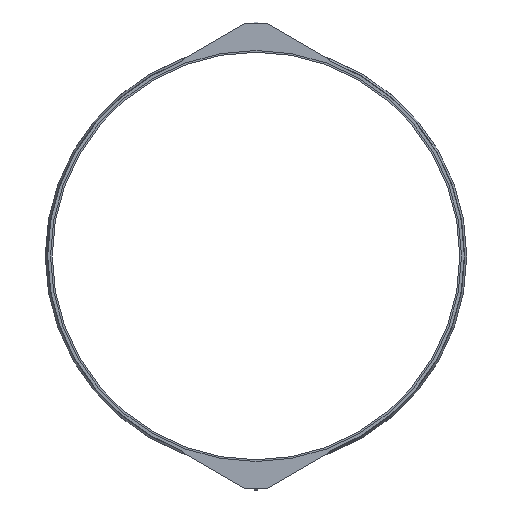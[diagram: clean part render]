
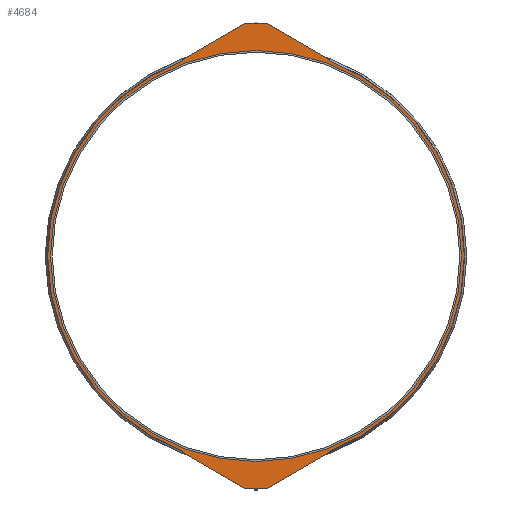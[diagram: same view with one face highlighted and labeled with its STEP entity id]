
A CAD part, left-side view. The second image highlights one B-rep face of the part: STEP entity #4684.
In plain terms, the highlighted planar face has unit normal (-1, 0, 0).
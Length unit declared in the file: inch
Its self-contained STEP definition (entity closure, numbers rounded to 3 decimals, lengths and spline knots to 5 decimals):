
#134=FACE_BOUND('',#814,.T.);
#300=PLANE('',#5095);
#539=FACE_OUTER_BOUND('',#813,.T.);
#813=EDGE_LOOP('',(#4140,#4141,#4142,#4143,#4144,#4145,#4146,#4147,#4148,
#4149,#4150,#4151,#4152,#4153,#4154,#4155,#4156,#4157,#4158,#4159));
#814=EDGE_LOOP('',(#4160,#4161));
#973=LINE('',#6759,#1422);
#977=LINE('',#6771,#1426);
#981=LINE('',#6783,#1430);
#985=LINE('',#6795,#1434);
#987=LINE('',#6800,#1436);
#1206=LINE('',#7611,#1655);
#1210=LINE('',#7623,#1659);
#1214=LINE('',#7635,#1663);
#1218=LINE('',#7645,#1667);
#1221=LINE('',#7651,#1670);
#1422=VECTOR('',#5479,0.3937);
#1426=VECTOR('',#5491,0.3937);
#1430=VECTOR('',#5503,0.3937);
#1434=VECTOR('',#5515,0.3937);
#1436=VECTOR('',#5519,0.3937);
#1655=VECTOR('',#6082,0.3937);
#1659=VECTOR('',#6094,0.3937);
#1663=VECTOR('',#6106,0.3937);
#1667=VECTOR('',#6118,0.3937);
#1670=VECTOR('',#6123,0.3937);
#1739=CIRCLE('',#4808,0.063);
#1741=CIRCLE('',#4812,0.125);
#1743=CIRCLE('',#4816,0.125);
#1745=CIRCLE('',#4820,0.063);
#1750=CIRCLE('',#4829,45.625);
#1803=CIRCLE('',#4993,0.063);
#1805=CIRCLE('',#4997,0.125);
#1807=CIRCLE('',#5001,0.125);
#1809=CIRCLE('',#5005,0.063);
#1811=CIRCLE('',#5011,45.625);
#1863=CIRCLE('',#5093,45.);
#1864=CIRCLE('',#5094,45.);
#1988=VERTEX_POINT('',#6749);
#1989=VERTEX_POINT('',#6751);
#1991=VERTEX_POINT('',#6757);
#1993=VERTEX_POINT('',#6763);
#1995=VERTEX_POINT('',#6769);
#1997=VERTEX_POINT('',#6775);
#1999=VERTEX_POINT('',#6781);
#2001=VERTEX_POINT('',#6787);
#2003=VERTEX_POINT('',#6793);
#2005=VERTEX_POINT('',#6799);
#2014=VERTEX_POINT('',#6821);
#2206=VERTEX_POINT('',#7602);
#2207=VERTEX_POINT('',#7604);
#2209=VERTEX_POINT('',#7610);
#2211=VERTEX_POINT('',#7616);
#2213=VERTEX_POINT('',#7622);
#2215=VERTEX_POINT('',#7628);
#2217=VERTEX_POINT('',#7634);
#2219=VERTEX_POINT('',#7640);
#2221=VERTEX_POINT('',#7649);
#2285=VERTEX_POINT('',#7841);
#2286=VERTEX_POINT('',#7843);
#2468=EDGE_CURVE('',#1988,#1989,#1739,.T.);
#2472=EDGE_CURVE('',#1991,#1988,#973,.T.);
#2475=EDGE_CURVE('',#1993,#1991,#1741,.T.);
#2478=EDGE_CURVE('',#1995,#1993,#977,.T.);
#2481=EDGE_CURVE('',#1997,#1995,#1743,.T.);
#2484=EDGE_CURVE('',#1999,#1997,#981,.T.);
#2487=EDGE_CURVE('',#2001,#1999,#1745,.T.);
#2490=EDGE_CURVE('',#2003,#2001,#985,.T.);
#2492=EDGE_CURVE('',#1989,#2005,#987,.T.);
#2504=EDGE_CURVE('',#2014,#2003,#1750,.T.);
#2790=EDGE_CURVE('',#2207,#2206,#1803,.T.);
#2793=EDGE_CURVE('',#2209,#2207,#1206,.T.);
#2796=EDGE_CURVE('',#2211,#2209,#1805,.T.);
#2799=EDGE_CURVE('',#2213,#2211,#1210,.T.);
#2802=EDGE_CURVE('',#2215,#2213,#1807,.T.);
#2805=EDGE_CURVE('',#2217,#2215,#1214,.T.);
#2808=EDGE_CURVE('',#2219,#2217,#1809,.T.);
#2811=EDGE_CURVE('',#2014,#2219,#1218,.T.);
#2814=EDGE_CURVE('',#2206,#2221,#1221,.T.);
#2819=EDGE_CURVE('',#2005,#2221,#1811,.T.);
#2910=EDGE_CURVE('',#2286,#2285,#1863,.T.);
#2911=EDGE_CURVE('',#2285,#2286,#1864,.T.);
#4140=ORIENTED_EDGE('',*,*,#2504,.F.);
#4141=ORIENTED_EDGE('',*,*,#2811,.T.);
#4142=ORIENTED_EDGE('',*,*,#2808,.T.);
#4143=ORIENTED_EDGE('',*,*,#2805,.T.);
#4144=ORIENTED_EDGE('',*,*,#2802,.T.);
#4145=ORIENTED_EDGE('',*,*,#2799,.T.);
#4146=ORIENTED_EDGE('',*,*,#2796,.T.);
#4147=ORIENTED_EDGE('',*,*,#2793,.T.);
#4148=ORIENTED_EDGE('',*,*,#2790,.T.);
#4149=ORIENTED_EDGE('',*,*,#2814,.T.);
#4150=ORIENTED_EDGE('',*,*,#2819,.F.);
#4151=ORIENTED_EDGE('',*,*,#2492,.F.);
#4152=ORIENTED_EDGE('',*,*,#2468,.F.);
#4153=ORIENTED_EDGE('',*,*,#2472,.F.);
#4154=ORIENTED_EDGE('',*,*,#2475,.F.);
#4155=ORIENTED_EDGE('',*,*,#2478,.F.);
#4156=ORIENTED_EDGE('',*,*,#2481,.F.);
#4157=ORIENTED_EDGE('',*,*,#2484,.F.);
#4158=ORIENTED_EDGE('',*,*,#2487,.F.);
#4159=ORIENTED_EDGE('',*,*,#2490,.F.);
#4160=ORIENTED_EDGE('',*,*,#2910,.T.);
#4161=ORIENTED_EDGE('',*,*,#2911,.T.);
#4684=ADVANCED_FACE('',(#539,#134),#300,.T.);
#4808=AXIS2_PLACEMENT_3D('',#6752,#5472,#5473);
#4812=AXIS2_PLACEMENT_3D('',#6765,#5485,#5486);
#4816=AXIS2_PLACEMENT_3D('',#6777,#5497,#5498);
#4820=AXIS2_PLACEMENT_3D('',#6789,#5509,#5510);
#4829=AXIS2_PLACEMENT_3D('',#6823,#5539,#5540);
#4993=AXIS2_PLACEMENT_3D('',#7605,#6076,#6077);
#4997=AXIS2_PLACEMENT_3D('',#7617,#6088,#6089);
#5001=AXIS2_PLACEMENT_3D('',#7629,#6100,#6101);
#5005=AXIS2_PLACEMENT_3D('',#7641,#6112,#6113);
#5011=AXIS2_PLACEMENT_3D('',#7661,#6133,#6134);
#5093=AXIS2_PLACEMENT_3D('',#7844,#6336,#6337);
#5094=AXIS2_PLACEMENT_3D('',#7845,#6338,#6339);
#5095=AXIS2_PLACEMENT_3D('',#7846,#6340,#6341);
#5472=DIRECTION('center_axis',(1.,0.,0.));
#5473=DIRECTION('ref_axis',(0.,-1.,0.));
#5479=DIRECTION('',(0.,0.867,0.499));
#5485=DIRECTION('center_axis',(1.,0.,0.));
#5486=DIRECTION('ref_axis',(0.,-0.499,0.867));
#5491=DIRECTION('',(0.,1.,0.));
#5497=DIRECTION('center_axis',(1.,0.,0.));
#5498=DIRECTION('ref_axis',(0.,0.,1.));
#5503=DIRECTION('',(0.,0.867,-0.499));
#5509=DIRECTION('center_axis',(1.,0.,0.));
#5510=DIRECTION('ref_axis',(0.,0.499,0.867));
#5515=DIRECTION('',(0.,0.,-1.));
#5519=DIRECTION('',(0.,0.,1.));
#5539=DIRECTION('center_axis',(1.,0.,0.));
#5540=DIRECTION('ref_axis',(0.,0.,-1.));
#6076=DIRECTION('center_axis',(-1.,0.,0.));
#6077=DIRECTION('ref_axis',(0.,-1.,0.));
#6082=DIRECTION('',(0.,0.867,-0.499));
#6088=DIRECTION('center_axis',(-1.,0.,0.));
#6089=DIRECTION('ref_axis',(0.,-0.499,-0.867));
#6094=DIRECTION('',(0.,1.,0.));
#6100=DIRECTION('center_axis',(-1.,0.,0.));
#6101=DIRECTION('ref_axis',(0.,0.,-1.));
#6106=DIRECTION('',(0.,0.867,0.499));
#6112=DIRECTION('center_axis',(-1.,0.,0.));
#6113=DIRECTION('ref_axis',(0.,0.499,-0.867));
#6118=DIRECTION('',(0.,0.,1.));
#6123=DIRECTION('',(0.,0.,-1.));
#6133=DIRECTION('center_axis',(1.,0.,0.));
#6134=DIRECTION('ref_axis',(0.,0.,-1.));
#6336=DIRECTION('center_axis',(1.,0.,0.));
#6337=DIRECTION('ref_axis',(0.,0.,-1.));
#6338=DIRECTION('center_axis',(1.,0.,0.));
#6339=DIRECTION('ref_axis',(0.,0.,-1.));
#6340=DIRECTION('center_axis',(-1.,0.,0.));
#6341=DIRECTION('ref_axis',(0.,0.,1.));
#6749=CARTESIAN_POINT('',(-7.5,15.96841,-43.12069));
#6751=CARTESIAN_POINT('',(-7.5,16.,-43.06607));
#6752=CARTESIAN_POINT('Origin',(-7.5,15.937,-43.06607));
#6757=CARTESIAN_POINT('',(-7.5,2.42894,-50.90835));
#6759=CARTESIAN_POINT('',(-7.5,2.42894,-50.90835));
#6763=CARTESIAN_POINT('',(-7.5,2.36662,-50.925));
#6765=CARTESIAN_POINT('Origin',(-7.5,2.36662,-50.8));
#6769=CARTESIAN_POINT('',(-7.5,-2.36662,-50.925));
#6771=CARTESIAN_POINT('',(-7.5,0.,-50.925));
#6775=CARTESIAN_POINT('',(-7.5,-2.42894,-50.90835));
#6777=CARTESIAN_POINT('Origin',(-7.5,-2.36662,-50.8));
#6781=CARTESIAN_POINT('',(-7.5,-15.96841,-43.12069));
#6783=CARTESIAN_POINT('',(-7.5,-15.96841,-43.12069));
#6787=CARTESIAN_POINT('',(-7.5,-16.,-43.06607));
#6789=CARTESIAN_POINT('Origin',(-7.5,-15.937,-43.06607));
#6793=CARTESIAN_POINT('',(-7.5,-16.,-42.72752));
#6795=CARTESIAN_POINT('',(-7.5,-16.,-42.72752));
#6799=CARTESIAN_POINT('',(-7.5,16.,-42.72752));
#6800=CARTESIAN_POINT('',(-7.5,16.,-43.06607));
#6821=CARTESIAN_POINT('',(-7.5,-16.,42.72752));
#6823=CARTESIAN_POINT('Origin',(-7.5,0.,0.));
#7602=CARTESIAN_POINT('',(-7.5,16.,43.06607));
#7604=CARTESIAN_POINT('',(-7.5,15.96841,43.12069));
#7605=CARTESIAN_POINT('Origin',(-7.5,15.937,43.06607));
#7610=CARTESIAN_POINT('',(-7.5,2.42894,50.90835));
#7611=CARTESIAN_POINT('',(-7.5,2.42894,50.90835));
#7616=CARTESIAN_POINT('',(-7.5,2.36662,50.925));
#7617=CARTESIAN_POINT('Origin',(-7.5,2.36662,50.8));
#7622=CARTESIAN_POINT('',(-7.5,-2.36662,50.925));
#7623=CARTESIAN_POINT('',(-7.5,0.,50.925));
#7628=CARTESIAN_POINT('',(-7.5,-2.42894,50.90835));
#7629=CARTESIAN_POINT('Origin',(-7.5,-2.36662,50.8));
#7634=CARTESIAN_POINT('',(-7.5,-15.96841,43.12069));
#7635=CARTESIAN_POINT('',(-7.5,-15.96841,43.12069));
#7640=CARTESIAN_POINT('',(-7.5,-16.,43.06607));
#7641=CARTESIAN_POINT('Origin',(-7.5,-15.937,43.06607));
#7645=CARTESIAN_POINT('',(-7.5,-16.,42.72752));
#7649=CARTESIAN_POINT('',(-7.5,16.,42.72752));
#7651=CARTESIAN_POINT('',(-7.5,16.,43.06607));
#7661=CARTESIAN_POINT('Origin',(-7.5,0.,0.));
#7841=CARTESIAN_POINT('',(-7.5,-45.,0.));
#7843=CARTESIAN_POINT('',(-7.5,45.,0.));
#7844=CARTESIAN_POINT('Origin',(-7.5,0.,0.));
#7845=CARTESIAN_POINT('Origin',(-7.5,0.,0.));
#7846=CARTESIAN_POINT('Origin',(-7.5,45.625,0.));
